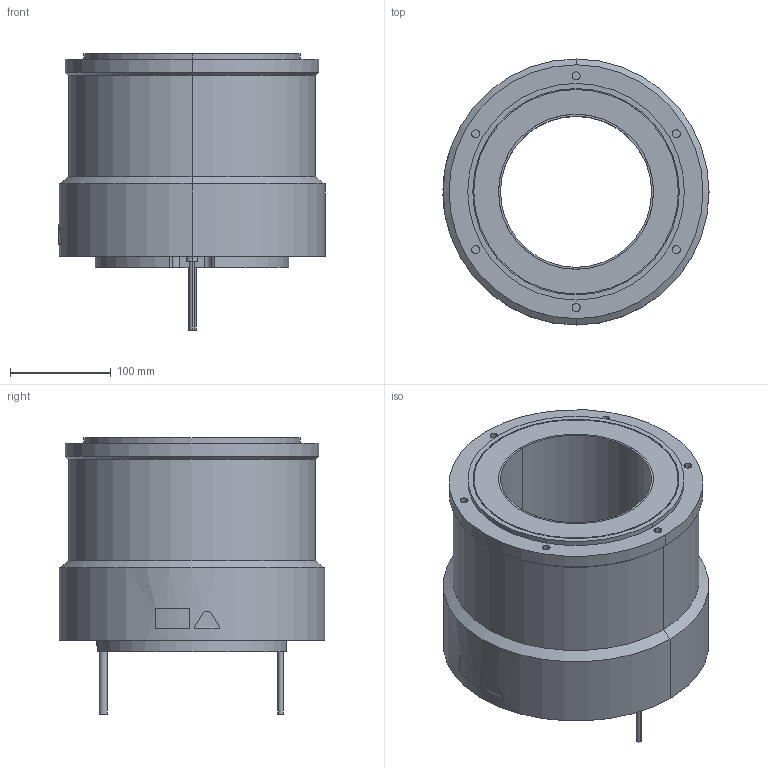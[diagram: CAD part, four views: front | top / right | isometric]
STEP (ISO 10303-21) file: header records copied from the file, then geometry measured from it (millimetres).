
FILE_DESCRIPTION (( 'STEP AP203' ), '1' );
FILE_NAME ('sgm7d_1zi_c5_.STEP', '2016-02-22T09:51:30', ( '' ), ( '' ), 'SwSTEP 2.0', 'SolidWorks 2010', '' );
FILE_SCHEMA (( 'CONFIG_CONTROL_DESIGN' ));
Length unit declared in the file: millimetre
Products named in the file (1): sgm7d_1zi_c5_
Bounding box: 264.08 x 264 x 274 mm (x, y, z)
Volume: 6382195 mm3; surface area: 356867.5 mm2
Topology: 1 solids, 1 shells, 171 faces, 400 edges, 263 vertices
Faces by surface type: cylinder 103, plane 59, bspline 5, cone 4
Entity records: 5246 total; most frequent: CARTESIAN_POINT 1074, DIRECTION 933, ORIENTED_EDGE 800, EDGE_CURVE 400, AXIS2_PLACEMENT_3D 382, VERTEX_POINT 263, CIRCLE 215, EDGE_LOOP 205
